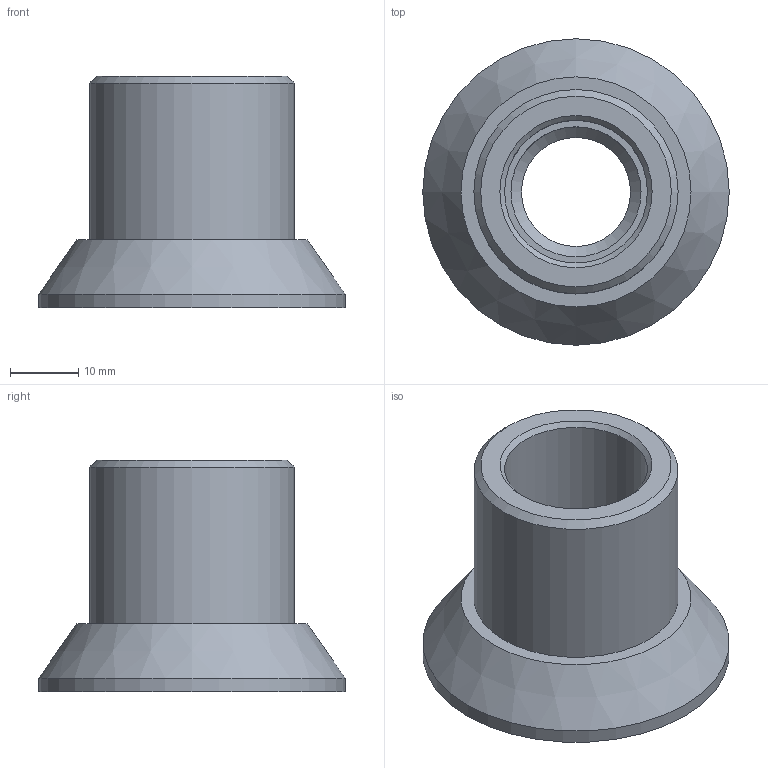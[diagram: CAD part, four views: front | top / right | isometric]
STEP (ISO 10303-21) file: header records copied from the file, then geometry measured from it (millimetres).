
FILE_DESCRIPTION( ( 'Unknown' ), '1' );
FILE_NAME( 'F:/U_Proces/Dokumentation/7000 3D Step filer/7000-/7000133/PM021.stp', 'Unknown', ( 'Unknown' ), ( 'Unknown' ), 'PSStep 13.0', 'Unknown', ' ' );
FILE_SCHEMA( ( 'AUTOMOTIVE_DESIGN { 1 0 10303 214 1 1 1 1 }' ) );
Length unit declared in the file: millimetre
Products named in the file (1): 1
Bounding box: 45 x 45 x 34 mm (x, y, z)
Surface area: 7811.8 mm2 (no closed solid volume)
Topology: 0 solids, 13 shells, 13 faces, 40 edges, 31 vertices
Faces by surface type: cone 5, plane 4, cylinder 4
Full cylindrical faces by diameter (mm): 19.1 x1, 20.96 x1, 30 x1, 45 x1
Entity records: 492 total; most frequent: DIRECTION 80, CARTESIAN_POINT 66, AXIS2_PLACEMENT_3D 40, FACE_BOUND 26, EDGE_LOOP 26, ORIENTED_EDGE 26, EDGE_CURVE 26, VERTEX_POINT 26
